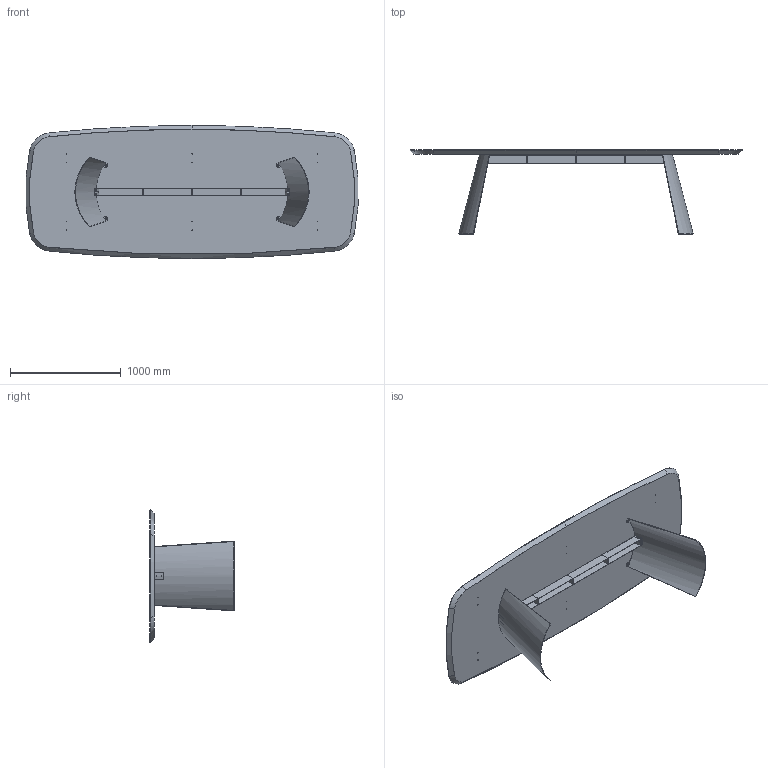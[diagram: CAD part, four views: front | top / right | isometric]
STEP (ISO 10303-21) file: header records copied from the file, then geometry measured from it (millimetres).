
FILE_DESCRIPTION (( 'STEP AP203' ), '1' );
FILE_NAME ('DN44W.STEP', '2024-08-07T15:13:01', ( '' ), ( '' ), 'SwSTEP 2.0', 'SolidWorks 2022', '' );
FILE_SCHEMA (( 'CONFIG_CONTROL_DESIGN' ));
Length unit declared in the file: millimetre
Products named in the file (9): DNB400000-02-ASSIEME STRUTTURA COMPLETA_L.1770; SDNB300000-02-GAMBA X TRASP; W4XCMXX-00-Piani Sagomati legno_3000 x 1200; feltro Ø12x3; DNBX00000-01-DORIAN TRAVERSO LXXXX PER TAVOLO LX00_L.1770; DNB300000_02-02-RISCONTRO STANGONE CENTRALE; DNB300000_03-02-PIASTRINA; DNB300000_01-02-GAMBA DORIAN; DN44W
Assembly tree (13 placements, depth 4):
  DN44W
    W4XCMXX-00-Piani Sagomati legno_3000 x 1200
    DNB400000-02-ASSIEME STRUTTURA COMPLETA_L.1770
      SDNB300000-02-GAMBA X TRASP  x2
        DNB300000_01-02-GAMBA DORIAN
        DNB300000_02-02-RISCONTRO STANGONE CENTRALE
        DNB300000_03-02-PIASTRINA
      DNBX00000-01-DORIAN TRAVERSO LXXXX PER TAVOLO LX00_L.1770
    feltro Ø12x3  x4
Bounding box: 2991.72 x 758 x 1200 mm (x, y, z)
Volume: 128945804.1 mm3; surface area: 9617671 mm2
Topology: 19 solids, 19 shells, 377 faces, 962 edges, 604 vertices
Faces by surface type: plane 158, cylinder 145, cone 47, bspline 18, torus 9
Entity records: 10800 total; most frequent: CARTESIAN_POINT 2172, DIRECTION 1607, ORIENTED_EDGE 1536, EDGE_CURVE 768, AXIS2_PLACEMENT_3D 563, VERTEX_POINT 500, VECTOR 481, LINE 481
